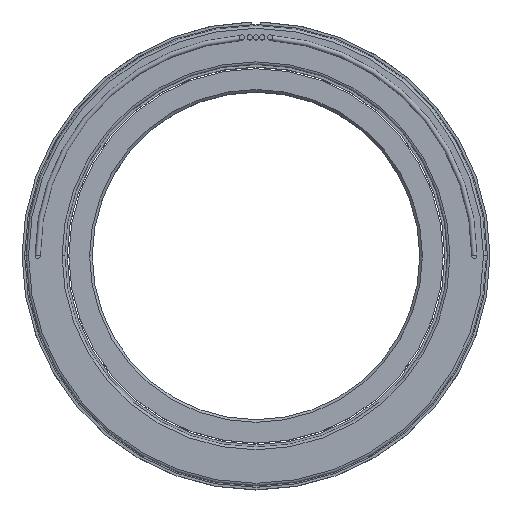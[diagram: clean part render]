
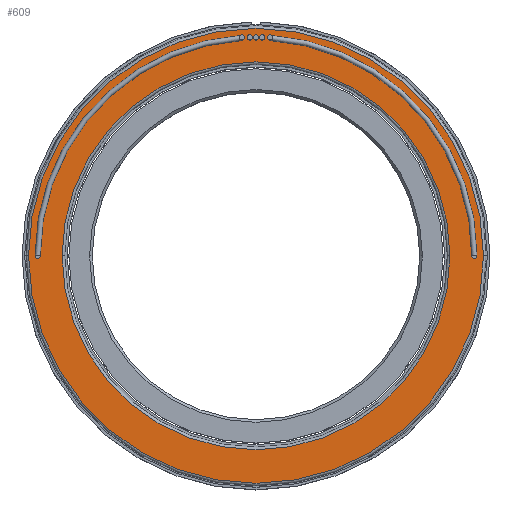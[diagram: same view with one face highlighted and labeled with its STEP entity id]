
A CAD part, top view. The second image highlights one B-rep face of the part: STEP entity #609.
In plain terms, the highlighted planar face has unit normal (0, 0, 1).
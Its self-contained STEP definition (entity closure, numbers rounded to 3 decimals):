
#6 = AXIS2_PLACEMENT_3D ( 'NONE', #2654, #2190, #1055 ) ;
#69 = DIRECTION ( 'NONE',  ( 0., 0., 1. ) ) ;
#80 = EDGE_LOOP ( 'NONE', ( #1704, #780 ) ) ;
#117 = CIRCLE ( 'NONE', #330, 1.27 ) ;
#253 = DIRECTION ( 'NONE',  ( 0., 0., 1. ) ) ;
#264 = CIRCLE ( 'NONE', #6, 111.125 ) ;
#278 = DIRECTION ( 'NONE',  ( 1., 0., 0. ) ) ;
#279 = CARTESIAN_POINT ( 'NONE',  ( -111.125, 0., 38.862 ) ) ;
#308 = DIRECTION ( 'NONE',  ( 1., 0., 0. ) ) ;
#318 = CIRCLE ( 'NONE', #2826, 1.27 ) ;
#330 = AXIS2_PLACEMENT_3D ( 'NONE', #859, #1064, #591 ) ;
#338 = EDGE_CURVE ( 'NONE', #2405, #1283, #1479, .T. ) ;
#469 = CIRCLE ( 'NONE', #1709, 1.27 ) ;
#477 = EDGE_LOOP ( 'NONE', ( #586, #737 ) ) ;
#494 = CARTESIAN_POINT ( 'NONE',  ( 0., 0., 38.862 ) ) ;
#514 = VERTEX_POINT ( 'NONE', #1925 ) ;
#525 = CARTESIAN_POINT ( 'NONE',  ( 0., 0., 38.862 ) ) ;
#586 = ORIENTED_EDGE ( 'NONE', *, *, #2876, .F. ) ;
#587 = DIRECTION ( 'NONE',  ( 1., 0., 0. ) ) ;
#591 = DIRECTION ( 'NONE',  ( 1., 0., 0. ) ) ;
#601 = CARTESIAN_POINT ( 'NONE',  ( 107.95, 0., 38.862 ) ) ;
#609 = ADVANCED_FACE ( 'NONE', ( #2558, #1784, #1091, #1665 ), #1889, .T. ) ;
#675 = EDGE_CURVE ( 'NONE', #1498, #2958, #318, .T. ) ;
#699 = EDGE_LOOP ( 'NONE', ( #1137, #1286 ) ) ;
#719 = VERTEX_POINT ( 'NONE', #2647 ) ;
#737 = ORIENTED_EDGE ( 'NONE', *, *, #2360, .F. ) ;
#780 = ORIENTED_EDGE ( 'NONE', *, *, #2246, .T. ) ;
#787 = DIRECTION ( 'NONE',  ( 1., 0., 0. ) ) ;
#856 = ORIENTED_EDGE ( 'NONE', *, *, #2679, .F. ) ;
#859 = CARTESIAN_POINT ( 'NONE',  ( -106.68, 0., 38.862 ) ) ;
#982 = DIRECTION ( 'NONE',  ( 1., 0., 0. ) ) ;
#1020 = DIRECTION ( 'NONE',  ( 0., 0., -1. ) ) ;
#1055 = DIRECTION ( 'NONE',  ( 1., 0., 0. ) ) ;
#1064 = DIRECTION ( 'NONE',  ( 0., 0., 1. ) ) ;
#1091 = FACE_OUTER_BOUND ( 'NONE', #80, .T. ) ;
#1116 = AXIS2_PLACEMENT_3D ( 'NONE', #525, #2408, #2374 ) ;
#1137 = ORIENTED_EDGE ( 'NONE', *, *, #1359, .T. ) ;
#1264 = CARTESIAN_POINT ( 'NONE',  ( 106.68, 0., 38.862 ) ) ;
#1283 = VERTEX_POINT ( 'NONE', #279 ) ;
#1286 = ORIENTED_EDGE ( 'NONE', *, *, #1414, .T. ) ;
#1359 = EDGE_CURVE ( 'NONE', #514, #1777, #2706, .T. ) ;
#1378 = AXIS2_PLACEMENT_3D ( 'NONE', #494, #2834, #982 ) ;
#1394 = AXIS2_PLACEMENT_3D ( 'NONE', #2129, #253, #278 ) ;
#1414 = EDGE_CURVE ( 'NONE', #1777, #514, #1986, .T. ) ;
#1449 = DIRECTION ( 'NONE',  ( 1., 0., 0. ) ) ;
#1479 = CIRCLE ( 'NONE', #1394, 111.125 ) ;
#1498 = VERTEX_POINT ( 'NONE', #1998 ) ;
#1499 = DIRECTION ( 'NONE',  ( 0., 0., 1. ) ) ;
#1665 = FACE_BOUND ( 'NONE', #699, .T. ) ;
#1666 = CARTESIAN_POINT ( 'NONE',  ( 106.68, 0., 38.862 ) ) ;
#1704 = ORIENTED_EDGE ( 'NONE', *, *, #338, .T. ) ;
#1709 = AXIS2_PLACEMENT_3D ( 'NONE', #2645, #1499, #587 ) ;
#1777 = VERTEX_POINT ( 'NONE', #2522 ) ;
#1781 = CARTESIAN_POINT ( 'NONE',  ( 111.125, 0., 38.862 ) ) ;
#1784 = FACE_BOUND ( 'NONE', #477, .T. ) ;
#1879 = EDGE_LOOP ( 'NONE', ( #856, #2090 ) ) ;
#1889 = PLANE ( 'NONE',  #1378 ) ;
#1904 = DIRECTION ( 'NONE',  ( 0., 0., 1. ) ) ;
#1925 = CARTESIAN_POINT ( 'NONE',  ( 94.742, 0., 38.862 ) ) ;
#1942 = CARTESIAN_POINT ( 'NONE',  ( 0., 0., 38.862 ) ) ;
#1986 = CIRCLE ( 'NONE', #1116, 94.742 ) ;
#1998 = CARTESIAN_POINT ( 'NONE',  ( 105.41, 0., 38.862 ) ) ;
#2090 = ORIENTED_EDGE ( 'NONE', *, *, #675, .F. ) ;
#2129 = CARTESIAN_POINT ( 'NONE',  ( 0., 0., 38.862 ) ) ;
#2132 = VERTEX_POINT ( 'NONE', #2355 ) ;
#2190 = DIRECTION ( 'NONE',  ( 0., 0., 1. ) ) ;
#2246 = EDGE_CURVE ( 'NONE', #1283, #2405, #264, .T. ) ;
#2355 = CARTESIAN_POINT ( 'NONE',  ( -105.41, 0., 38.862 ) ) ;
#2360 = EDGE_CURVE ( 'NONE', #719, #2132, #117, .T. ) ;
#2374 = DIRECTION ( 'NONE',  ( 1., 0., 0. ) ) ;
#2405 = VERTEX_POINT ( 'NONE', #1781 ) ;
#2408 = DIRECTION ( 'NONE',  ( 0., 0., -1. ) ) ;
#2522 = CARTESIAN_POINT ( 'NONE',  ( -94.742, 0., 38.862 ) ) ;
#2558 = FACE_BOUND ( 'NONE', #1879, .T. ) ;
#2645 = CARTESIAN_POINT ( 'NONE',  ( -106.68, 0., 38.862 ) ) ;
#2647 = CARTESIAN_POINT ( 'NONE',  ( -107.95, 0., 38.862 ) ) ;
#2654 = CARTESIAN_POINT ( 'NONE',  ( 0., 0., 38.862 ) ) ;
#2679 = EDGE_CURVE ( 'NONE', #2958, #1498, #2759, .T. ) ;
#2706 = CIRCLE ( 'NONE', #2906, 94.742 ) ;
#2759 = CIRCLE ( 'NONE', #2760, 1.27 ) ;
#2760 = AXIS2_PLACEMENT_3D ( 'NONE', #1666, #1904, #1449 ) ;
#2826 = AXIS2_PLACEMENT_3D ( 'NONE', #1264, #69, #308 ) ;
#2834 = DIRECTION ( 'NONE',  ( 0., 0., 1. ) ) ;
#2876 = EDGE_CURVE ( 'NONE', #2132, #719, #469, .T. ) ;
#2906 = AXIS2_PLACEMENT_3D ( 'NONE', #1942, #1020, #787 ) ;
#2958 = VERTEX_POINT ( 'NONE', #601 ) ;
